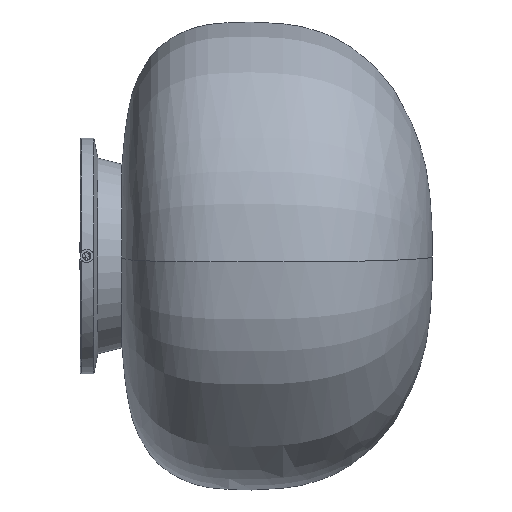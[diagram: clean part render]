
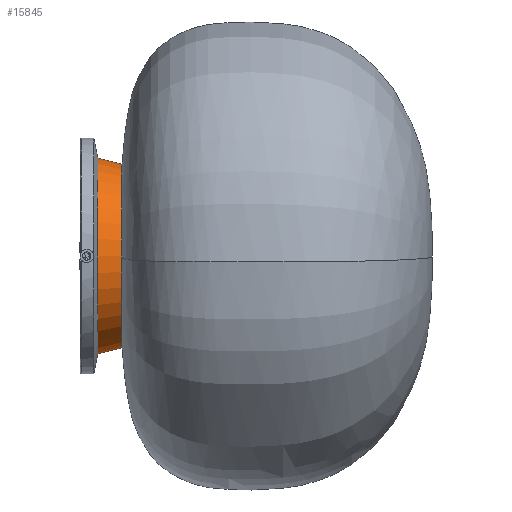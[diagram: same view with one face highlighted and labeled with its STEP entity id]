
A CAD part, left-side view. The second image highlights one B-rep face of the part: STEP entity #15845.
In plain terms, the highlighted conical face has half-angle 14.036 degrees and reference radius 55 mm.
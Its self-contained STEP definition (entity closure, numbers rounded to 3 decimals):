
#439 = CARTESIAN_POINT ( 'NONE',  ( 0., -25., 0. ) ) ;
#865 = CIRCLE ( 'NONE', #19217, 55. ) ;
#1654 = VERTEX_POINT ( 'NONE', #18423 ) ;
#2491 = DIRECTION ( 'NONE',  ( 0., 0., -1. ) ) ;
#2560 = CARTESIAN_POINT ( 'NONE',  ( 0., -10.565, -58.609 ) ) ;
#2858 = DIRECTION ( 'NONE',  ( 0., 0., -1. ) ) ;
#3097 = VERTEX_POINT ( 'NONE', #22826 ) ;
#3337 = CARTESIAN_POINT ( 'NONE',  ( 0., -25., -55. ) ) ;
#4774 = VERTEX_POINT ( 'NONE', #13628 ) ;
#5198 = DIRECTION ( 'NONE',  ( 0., 0., 1. ) ) ;
#5736 = EDGE_CURVE ( 'NONE', #1654, #10982, #11971, .T. ) ;
#6766 = DIRECTION ( 'NONE',  ( 0., -1., 0. ) ) ;
#6825 = ORIENTED_EDGE ( 'NONE', *, *, #9420, .T. ) ;
#7109 = ORIENTED_EDGE ( 'NONE', *, *, #13260, .T. ) ;
#7867 = DIRECTION ( 'NONE',  ( 0., 0.97, -0.243 ) ) ;
#8661 = EDGE_CURVE ( 'NONE', #4774, #1654, #865, .T. ) ;
#9142 = CONICAL_SURFACE ( 'NONE', #25265, 55., 0.245 ) ;
#9420 = EDGE_CURVE ( 'NONE', #3097, #10982, #18809, .T. ) ;
#10870 = VECTOR ( 'NONE', #11504, 1000. ) ;
#10982 = VERTEX_POINT ( 'NONE', #2560 ) ;
#11504 = DIRECTION ( 'NONE',  ( 0., 0.97, 0.243 ) ) ;
#11971 = LINE ( 'NONE', #3337, #14145 ) ;
#13260 = EDGE_CURVE ( 'NONE', #4774, #3097, #17782, .T. ) ;
#13614 = EDGE_LOOP ( 'NONE', ( #16369, #25436, #7109, #6825 ) ) ;
#13628 = CARTESIAN_POINT ( 'NONE',  ( 0., -25., 55. ) ) ;
#14145 = VECTOR ( 'NONE', #7867, 1000. ) ;
#15728 = CARTESIAN_POINT ( 'NONE',  ( 0., -25., 0. ) ) ;
#15845 = ADVANCED_FACE ( 'NONE', ( #21864 ), #9142, .T. ) ;
#16369 = ORIENTED_EDGE ( 'NONE', *, *, #5736, .F. ) ;
#17506 = CARTESIAN_POINT ( 'NONE',  ( 0., -25., 55. ) ) ;
#17782 = LINE ( 'NONE', #17506, #10870 ) ;
#18423 = CARTESIAN_POINT ( 'NONE',  ( 0., -25., -55. ) ) ;
#18809 = CIRCLE ( 'NONE', #19665, 58.609 ) ;
#19217 = AXIS2_PLACEMENT_3D ( 'NONE', #439, #6766, #2491 ) ;
#19665 = AXIS2_PLACEMENT_3D ( 'NONE', #21590, #25835, #2858 ) ;
#21459 = DIRECTION ( 'NONE',  ( 0., 1., 0. ) ) ;
#21590 = CARTESIAN_POINT ( 'NONE',  ( 0., -10.565, 0. ) ) ;
#21864 = FACE_OUTER_BOUND ( 'NONE', #13614, .T. ) ;
#22826 = CARTESIAN_POINT ( 'NONE',  ( 0., -10.565, 58.609 ) ) ;
#25265 = AXIS2_PLACEMENT_3D ( 'NONE', #15728, #21459, #5198 ) ;
#25436 = ORIENTED_EDGE ( 'NONE', *, *, #8661, .F. ) ;
#25835 = DIRECTION ( 'NONE',  ( 0., -1., 0. ) ) ;
